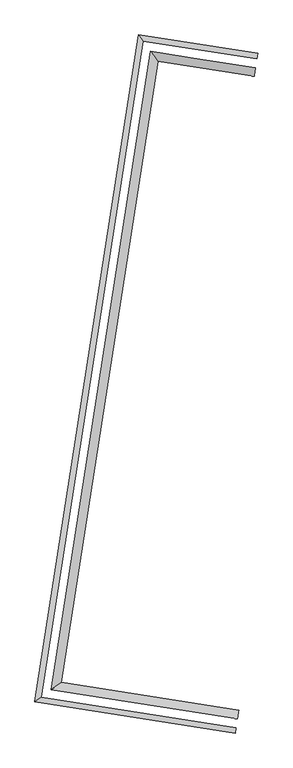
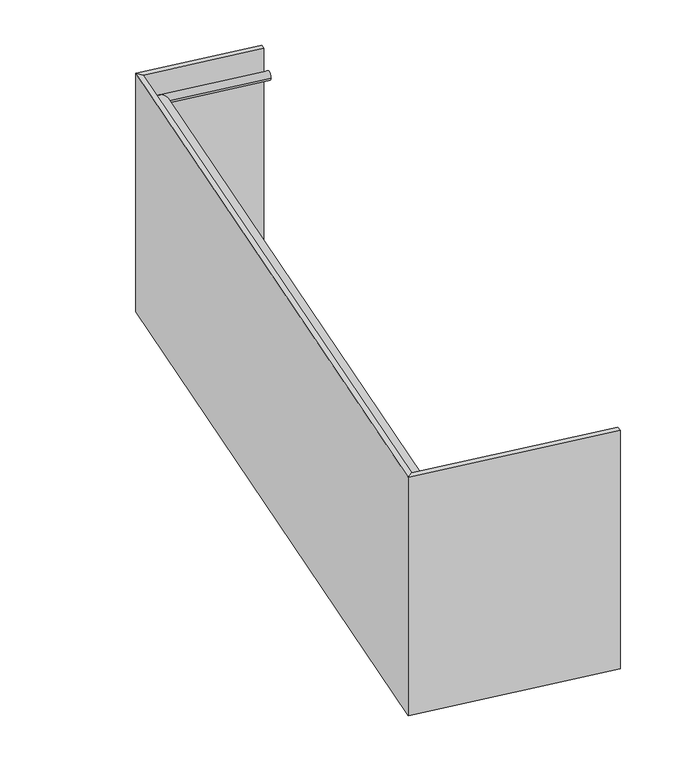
"""IFC4 building model written with IfcOpenShell, lengths in millimetres: railing geometry, Panel de vidrio - balcón."""

from ifc_helpers import new_model, si_unit, frame, origin, place, context, project, spatial, circle_curve, ellipse_curve, faceted_brep, source, transform, mapped, element, save
from ifc_brep_helpers import plane_surface, cylinder_surface, advanced_brep


def railing_a5b6f69f(model_context):
    return source(origin(), model_context, "Body", "SolidModel", [
        faceted_brep([(-48417.3698558, -53654.4269336, 7345.385397), (-48417.3698558, -53654.4269336, 6145.385397), (-48413.5196088, -53629.7252009, 6145.385397), (-48413.5196088, -53629.7252009, 7345.385397), (-49314.5463349, -53489.2826062, 7345.385397), (-49343.0983146, -53510.1340919, 7345.385397), (-49314.5463349, -53489.2826062, 6145.385397), (-49343.0983146, -53510.1340919, 6145.385397), (-48842.6888994, -50462.0232282, 7345.385397), (-48863.5403851, -50433.4712486, 7345.385397), (-48842.6888994, -50462.0232282, 6145.385397), (-48863.5403851, -50433.4712486, 6145.385397), (-48313.2782597, -50519.2403367, 7345.385397), (-48317.1285067, -50543.9420694, 7345.385397), (-48317.1285067, -50543.9420694, 6145.385397), (-48313.2782597, -50519.2403367, 6145.385397)], [[[0, 1, 2, 3]], [[0, 3, 4, 5]], [[3, 2, 6, 4]], [[2, 1, 7, 6]], [[1, 0, 5, 7]], [[5, 4, 8, 9]], [[4, 6, 10, 8]], [[6, 7, 11, 10]], [[7, 5, 9, 11]], [[12, 13, 14, 15]], [[9, 8, 13, 12]], [[8, 10, 14, 13]], [[10, 11, 15, 14]], [[11, 9, 12, 15]]]),
        advanced_brep(
        [(-48400.9052133, -53548.7959967, 7250.0), (-48407.0656085, -53588.318769, 7250.0), (-49266.6859028, -53454.3301745, 7250.0), (-49221.0027353, -53420.9677974, 7250.0), (-48807.7364677, -50509.8836604, 7250.0), (-48774.3740906, -50555.5668279, 7250.0), (-48329.7429022, -50624.8712736, 7250.0), (-48323.582507, -50585.3485013, 7250.0)],
        [
            (0, 1, circle_curve(frame((-48403.9854109, -53568.5573829, 7250.0), z_axis=(0.9880693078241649, -0.15400987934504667, 0.0), x_axis=(-0.15400987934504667, -0.9880693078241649, 0.0)), 20.0)),
            (1, 0, circle_curve(frame((-48403.9854109, -53568.5573829, 7250.0), z_axis=(0.9880693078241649, -0.15400987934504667, 0.0), x_axis=(-0.15400987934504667, -0.9880693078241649, 0.0)), 20.0)),
            (1, 2),
            (2, 3, ellipse_curve(frame((-49243.844319, -53437.648986, 7250.0), z_axis=(0.5897690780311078, -0.8075719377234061, 0.0), x_axis=(0.8075719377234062, 0.5897690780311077, 0.0)), 28.2842712, 20.0)),
            (3, 0),
            (3, 2, ellipse_curve(frame((-49243.844319, -53437.648986, 7250.0), z_axis=(0.5897690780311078, -0.8075719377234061, 0.0), x_axis=(0.8075719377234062, 0.5897690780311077, 0.0)), 28.2842712, 20.0)),
            (2, 4),
            (4, 5, ellipse_curve(frame((-48791.0552792, -50532.7252441, 7250.0), z_axis=(-0.8075719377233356, -0.5897690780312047, 0.0), x_axis=(0.5897690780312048, -0.8075719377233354, 0.0)), 28.2842713, 20.0)),
            (5, 3),
            (5, 4, ellipse_curve(frame((-48791.0552792, -50532.7252441, 7250.0), z_axis=(-0.8075719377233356, -0.5897690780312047, 0.0), x_axis=(0.5897690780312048, -0.8075719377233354, 0.0)), 28.2842713, 20.0)),
            (6, 7, circle_curve(frame((-48326.6627046, -50605.1098874, 7250.0), z_axis=(0.9880693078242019, -0.1540098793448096, 0.0), x_axis=(0.1540098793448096, 0.9880693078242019, 0.0)), 20.0)),
            (7, 6, circle_curve(frame((-48326.6627046, -50605.1098874, 7250.0), z_axis=(0.9880693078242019, -0.1540098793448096, 0.0), x_axis=(0.1540098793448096, 0.9880693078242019, 0.0)), 20.0)),
            (4, 7),
            (6, 5),
        ],
        [
            plane_surface(frame((-48403.9854109, -53568.5573829, 7250.0), z_axis=(0.9880693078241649, -0.15400987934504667, 0.0), x_axis=(0.15400987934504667, 0.9880693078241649, 0.0))),
            cylinder_surface(frame((-48403.9854109, -53568.5573829, 7250.0), z_axis=(0.9880693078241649, -0.15400987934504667, 0.0), x_axis=(-0.15400987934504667, -0.9880693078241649, 0.0)), 20.0),
            cylinder_surface(frame((-49243.844319, -53437.648986, 7250.0), z_axis=(-0.15400987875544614, -0.9880693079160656, 0.0), x_axis=(-0.9880693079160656, 0.15400987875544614, 0.0)), 20.0),
            plane_surface(frame((-48326.6627046, -50605.1098874, 7250.0), z_axis=(0.9880693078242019, -0.15400987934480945, 0.0), x_axis=(0.15400987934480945, 0.9880693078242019, 0.0))),
            cylinder_surface(frame((-48791.0552792, -50532.7252441, 7250.0), z_axis=(-0.9880693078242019, 0.1540098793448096, 0.0), x_axis=(0.1540098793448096, 0.9880693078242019, 0.0)), 20.0),
        ],
        [
            (0, [[1, 2]]),
            (1, [[-2, 3, 4, 5]]),
            (1, [[-1, -5, 6, -3]]),
            (2, [[-4, 7, 8, 9]]),
            (2, [[-6, -9, 10, -7]]),
            (3, [[11, 12]]),
            (4, [[-8, 13, -11, 14]]),
            (4, [[-10, -14, -12, -13]]),
        ],
    ),
    ])


if __name__ == "__main__":
    model = new_model("IFC4")
    model_context = context("Model", 3, world=origin())
    ifc_project = project(units=[si_unit("LENGTHUNIT", "METRE", prefix="MILLI")], contexts=[model_context])
    site = spatial("IfcSite", under=ifc_project)
    building = spatial("IfcBuilding", under=site)
    placement = place(None, origin())
    railing_shape = railing_a5b6f69f(model_context)
    element("IfcRailing", 1, ObjectType="Panel de vidrio - balcón", at=placement, inside=building, context=model_context, shape_type="MappedRepresentation", body=[
        mapped(railing_shape, transform((0.0, 0.0, 0.0), x_axis=(1.0, 0.0, 0.0), y_axis=(0.0, 1.0, 0.0), z_axis=(0.0, 0.0, 1.0))),
    ])
    save(model, "model.ifc")
